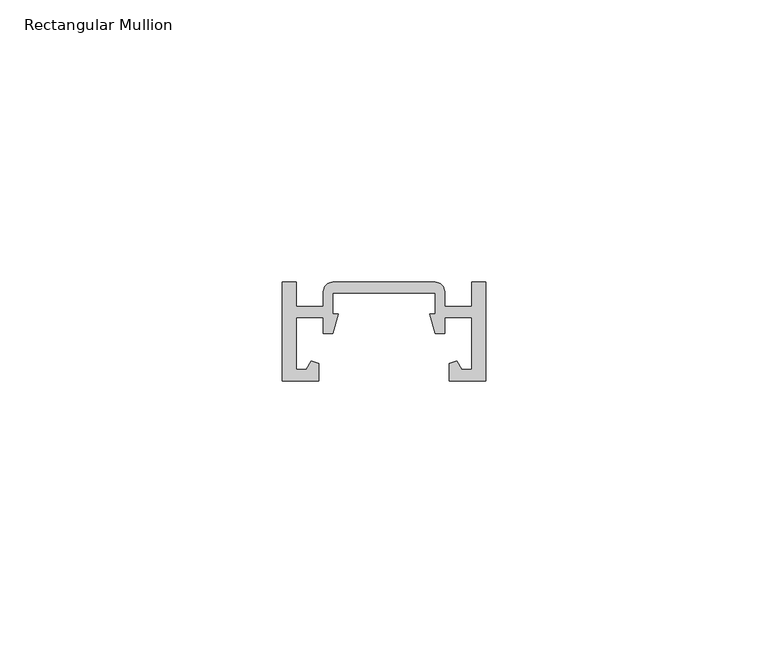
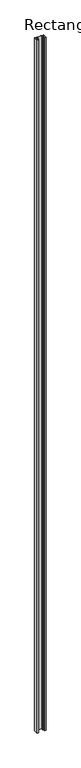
"""IFC4 building model written with IfcOpenShell, lengths in millimetres: member geometry, Rectangular Mullion : NLRS_21_CWM_drager LD.0195 - links_Storax."""

from ifc_helpers import new_model, si_unit, point, frame, frame_2d, origin, place, context, project, spatial, polyline, circle_curve, trimmed, segment, composite_curve, outline, extrude, source, transform, mapped, element, save


def rectangular_mullion_146f339b(model_context):
    return source(origin(), model_context, "Body", "SweptSolid", [
        extrude(outline(composite_curve([segment(polyline([(-50.0, -1.0), (-50.0, -18.5), (-56.4409991, -18.5), (-56.4409991, -15.3784461), (-55.1292819, -14.9977014), (-54.2747906, -16.4777239), (-52.4709938, -16.4777239), (-52.4709938, -7.3100862), (-57.2552741, -7.3100862), (-57.2552741, -10.0899542), (-58.9422025, -10.0899542), (-59.9422025, -6.6448186), (-58.9422025, -6.6448186), (-58.9422025, -2.9178188), (-77.0577975, -2.9178188), (-77.0577975, -6.6448186), (-76.0577975, -6.6448186), (-77.0577975, -10.0899542), (-78.7447259, -10.0899542), (-78.7447259, -7.3100862), (-83.5290062, -7.3100862), (-83.5290062, -16.4777239), (-81.7252094, -16.4777239), (-80.8707181, -14.9977014), (-79.5590009, -15.3784461), (-79.5590009, -18.5), (-86.0, -18.5), (-86.0, -1.0), (-83.5290062, -1.0), (-83.5290062, -5.3142835), (-78.7447259, -5.3142835), (-78.7447259, -2.6869285)]), True, "CONTINUOUS"), segment(trimmed(circle_curve(frame_2d((-77.0577975, -2.6869285)), 1.6869285), [point((-78.7447259, -2.6869285))], [point((-77.0577975, -1.0))], False, "CARTESIAN"), True, "CONTINUOUS"), segment(polyline([(-77.0577975, -1.0), (-58.9422025, -1.0)]), True, "CONTINUOUS"), segment(trimmed(circle_curve(frame_2d((-58.9422025, -2.6869285)), 1.6869285), [point((-58.9422025, -1.0))], [point((-57.2552741, -2.6869285))], False, "CARTESIAN"), True, "CONTINUOUS"), segment(polyline([(-57.2552741, -2.6869285), (-57.2552741, -5.3142835), (-52.4709938, -5.3142835), (-52.4709938, -1.0), (-50.0, -1.0)]), True, "CONTINUOUS")], self_intersect=False)), frame((0.0, 0.0, -3000.0), z_axis=(0.0, 0.0, 1.0), x_axis=(1.0, 0.0, 0.0)), (0.0, 0.0, 1.0), 3000.0),
    ])


if __name__ == "__main__":
    model = new_model("IFC4")
    model_context = context("Model", 3, world=origin())
    ifc_project = project(units=[si_unit("LENGTHUNIT", "METRE", prefix="MILLI")], contexts=[model_context])
    site = spatial("IfcSite", under=ifc_project)
    building = spatial("IfcBuilding", under=site)
    placement = place(None, origin())
    rectangular_mullion_shape = rectangular_mullion_146f339b(model_context)
    element("IfcMember", 1, ObjectType="Rectangular Mullion : NLRS_21_CWM_drager LD.0195 - links_Storax", at=placement, inside=building, context=model_context, shape_type="MappedRepresentation", body=[
        mapped(rectangular_mullion_shape, transform((0.0, 0.0, 0.0), x_axis=(1.0, 0.0, 0.0), y_axis=(0.0, 1.0, 0.0), z_axis=(0.0, 0.0, 1.0))),
    ])
    save(model, "model.ifc")
